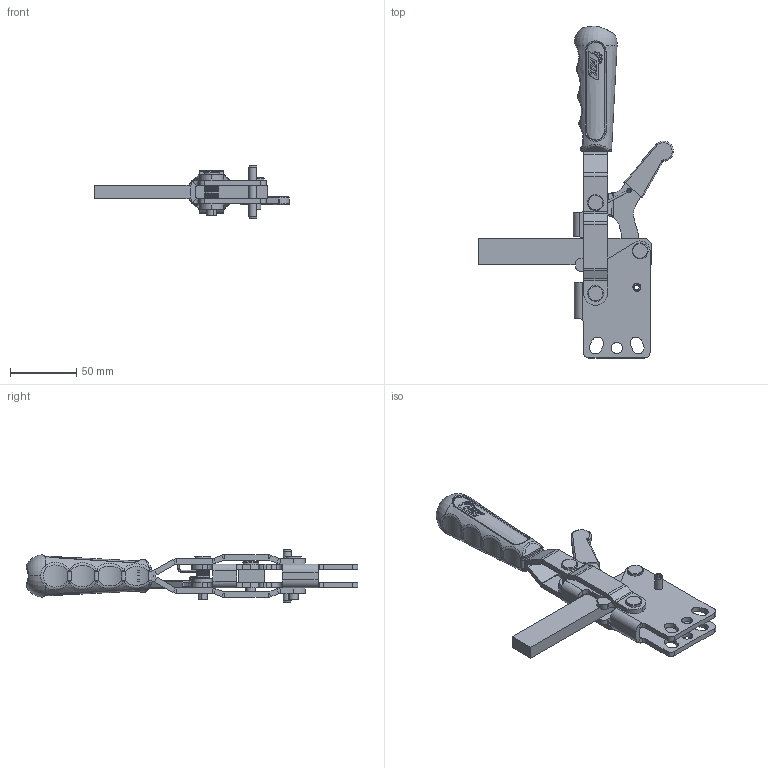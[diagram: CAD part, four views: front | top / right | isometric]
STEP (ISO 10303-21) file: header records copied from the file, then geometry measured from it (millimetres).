
FILE_DESCRIPTION (( 'STEP AP214' ), '1' );
FILE_NAME ('203_B-K.STEP', '2024-09-09T16:29:32', ( '' ), ( '' ), 'SwSTEP 2.0', 'SolidWorks 2023', '' );
FILE_SCHEMA (( 'AUTOMOTIVE_DESIGN' ));
Length unit declared in the file: millimetre
Products named in the file (14): FZK_203_B-K_01_00; FZK_203_B_03_00; FZK_203_B_05_00; 203_B-K; FZK_203_B_03A_00; FZK_203_B_01_00_YENI; YAY 203_B-K; Ø6x40 YARIKLI PİM; FZK_203_B_04_00; DALDIRMA SAP; FZK_203_B_07_00; FZK_203_B_02_00; TTMK_03_00; FZK_203_B_06_00
Assembly tree (17 placements, depth 3):
  203_B-K
    FZK_203_B_03_00
      FZK_203_B_03A_00  x2
    TTMK_03_00
    FZK_203_B_01_00_YENI
    FZK_203_B_02_00
    YAY 203_B-K
    FZK_203_B_04_00  x2
    FZK_203_B_05_00
    FZK_203_B_06_00  x2
    FZK_203_B-K_01_00
    Ø6x40 YARIKLI PİM
    FZK_203_B_07_00  x2
    DALDIRMA SAP
Bounding box: 146.59 x 249.67 x 40 mm (x, y, z)
Volume: 149749.3 mm3; surface area: 76450.1 mm2
Topology: 16 solids, 16 shells, 1304 faces, 3538 edges, 2268 vertices
Faces by surface type: cylinder 813, bspline 222, plane 192, cone 43, sphere 20, torus 14
Entity records: 46685 total; most frequent: CARTESIAN_POINT 26477, ORIENTED_EDGE 4828, DIRECTION 3012, EDGE_CURVE 2414, VERTEX_POINT 1550, B_SPLINE_CURVE_WITH_KNOTS 1228, AXIS2_PLACEMENT_3D 1141, EDGE_LOOP 968
